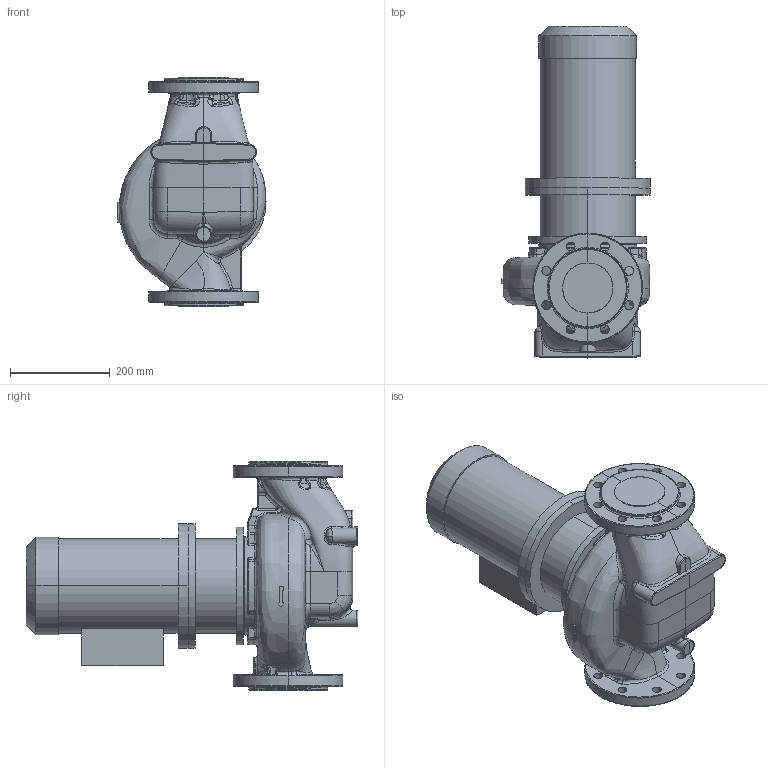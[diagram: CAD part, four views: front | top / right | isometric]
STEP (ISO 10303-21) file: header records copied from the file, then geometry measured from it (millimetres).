
FILE_DESCRIPTION (( 'STEP AP214' ), '1' );
FILE_NAME ('KRL 100-170-4-2,2.STEP', '2026-04-06T13:50:52', ( '' ), ( '' ), 'SwSTEP 2.0', 'SolidWorks 2016', '' );
FILE_SCHEMA (( 'AUTOMOTIVE_DESIGN' ));
Length unit declared in the file: millimetre
Products named in the file (1): KRL 100-170-4-2,2
Bounding box: 297 x 665.8 x 460 mm (x, y, z)
Volume: 29666764.3 mm3; surface area: 1129811.5 mm2
Topology: 4 solids, 4 shells, 668 faces, 1701 edges, 1010 vertices
Faces by surface type: bspline 330, cylinder 172, plane 114, cone 20, torus 16, sphere 16
Entity records: 62323 total; most frequent: CARTESIAN_POINT 42240, ORIENTED_EDGE 3338, DIRECTION 1787, EDGE_CURVE 1669, VERTEX_POINT 1010, AXIS2_PLACEMENT_3D 735, EDGE_LOOP 701, UNCERTAINTY_MEASURE_WITH_UNIT 674
